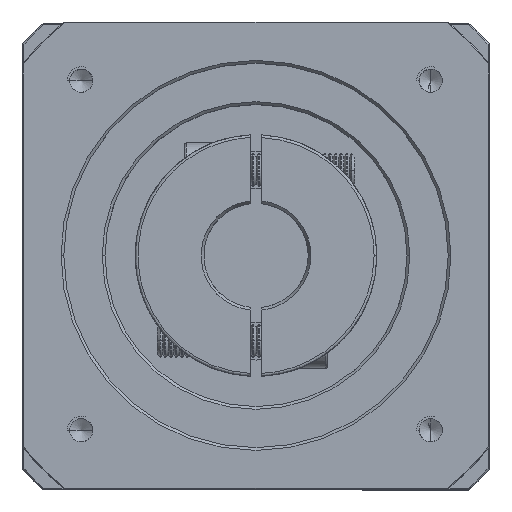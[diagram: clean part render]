
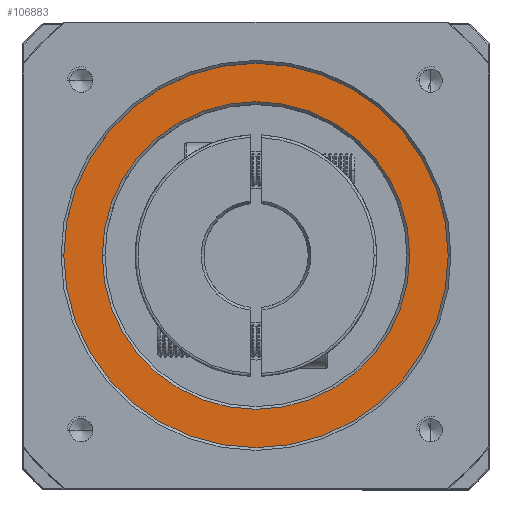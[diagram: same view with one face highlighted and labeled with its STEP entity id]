
A CAD part, top view. The second image highlights one B-rep face of the part: STEP entity #106883.
In plain terms, the highlighted planar face has unit normal (0, 0, 1).
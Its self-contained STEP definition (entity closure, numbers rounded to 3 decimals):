
#696 = EDGE_CURVE ( 'NONE', #47792, #109833, #13338, .T. ) ;
#2852 = CARTESIAN_POINT ( 'NONE',  ( -80.737, 49.441, 19.814 ) ) ;
#3353 = EDGE_LOOP ( 'NONE', ( #61363, #86423 ) ) ;
#13338 = CIRCLE ( 'NONE', #48090, 35. ) ;
#15526 = FACE_BOUND ( 'NONE', #98208, .T. ) ;
#16730 = CIRCLE ( 'NONE', #84931, 35. ) ;
#23278 = DIRECTION ( 'NONE',  ( 0., 0., 1. ) ) ;
#25094 = CARTESIAN_POINT ( 'NONE',  ( -52.737, 49.441, 19.814 ) ) ;
#39695 = ORIENTED_EDGE ( 'NONE', *, *, #93522, .T. ) ;
#43706 = DIRECTION ( 'NONE',  ( 1., 0., 0. ) ) ;
#46983 = DIRECTION ( 'NONE',  ( 0., 0., -1. ) ) ;
#47374 = CARTESIAN_POINT ( 'NONE',  ( -24.737, 49.441, 19.814 ) ) ;
#47792 = VERTEX_POINT ( 'NONE', #63081 ) ;
#48090 = AXIS2_PLACEMENT_3D ( 'NONE', #86743, #88373, #88774 ) ;
#54103 = DIRECTION ( 'NONE',  ( 0., 0., 1. ) ) ;
#56899 = DIRECTION ( 'NONE',  ( 1., 0., 0. ) ) ;
#59986 = FACE_OUTER_BOUND ( 'NONE', #3353, .T. ) ;
#61310 = DIRECTION ( 'NONE',  ( 1., 0., 0. ) ) ;
#61363 = ORIENTED_EDGE ( 'NONE', *, *, #119964, .T. ) ;
#63081 = CARTESIAN_POINT ( 'NONE',  ( -87.737, 49.441, 19.814 ) ) ;
#70919 = CIRCLE ( 'NONE', #91083, 28. ) ;
#71471 = ORIENTED_EDGE ( 'NONE', *, *, #96909, .T. ) ;
#72950 = AXIS2_PLACEMENT_3D ( 'NONE', #25094, #54103, #43706 ) ;
#73965 = CARTESIAN_POINT ( 'NONE',  ( -17.737, 49.441, 19.814 ) ) ;
#76457 = AXIS2_PLACEMENT_3D ( 'NONE', #122684, #105197, #85374 ) ;
#84931 = AXIS2_PLACEMENT_3D ( 'NONE', #118751, #23278, #61310 ) ;
#85374 = DIRECTION ( 'NONE',  ( 1., 0., 0. ) ) ;
#86423 = ORIENTED_EDGE ( 'NONE', *, *, #696, .T. ) ;
#86743 = CARTESIAN_POINT ( 'NONE',  ( -52.737, 49.441, 19.814 ) ) ;
#88373 = DIRECTION ( 'NONE',  ( 0., 0., 1. ) ) ;
#88774 = DIRECTION ( 'NONE',  ( 1., 0., 0. ) ) ;
#91083 = AXIS2_PLACEMENT_3D ( 'NONE', #122261, #46983, #56899 ) ;
#93522 = EDGE_CURVE ( 'NONE', #112997, #111247, #108277, .T. ) ;
#96909 = EDGE_CURVE ( 'NONE', #111247, #112997, #70919, .T. ) ;
#98208 = EDGE_LOOP ( 'NONE', ( #71471, #39695 ) ) ;
#105197 = DIRECTION ( 'NONE',  ( 0., 0., -1. ) ) ;
#106883 = ADVANCED_FACE ( 'NONE', ( #59986, #15526 ), #109426, .T. ) ;
#108277 = CIRCLE ( 'NONE', #76457, 28. ) ;
#109426 = PLANE ( 'NONE',  #72950 ) ;
#109833 = VERTEX_POINT ( 'NONE', #73965 ) ;
#111247 = VERTEX_POINT ( 'NONE', #47374 ) ;
#112997 = VERTEX_POINT ( 'NONE', #2852 ) ;
#118751 = CARTESIAN_POINT ( 'NONE',  ( -52.737, 49.441, 19.814 ) ) ;
#119964 = EDGE_CURVE ( 'NONE', #109833, #47792, #16730, .T. ) ;
#122261 = CARTESIAN_POINT ( 'NONE',  ( -52.737, 49.441, 19.814 ) ) ;
#122684 = CARTESIAN_POINT ( 'NONE',  ( -52.737, 49.441, 19.814 ) ) ;
